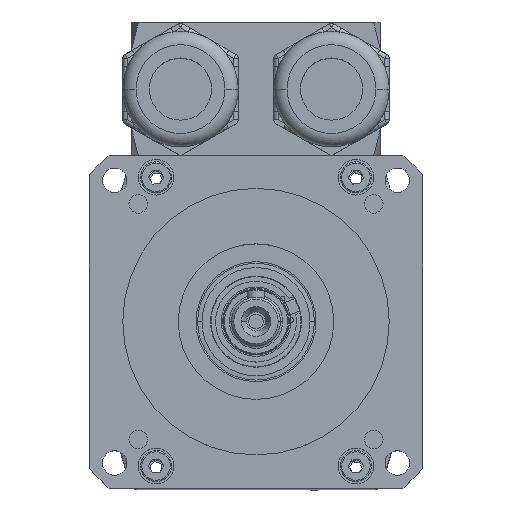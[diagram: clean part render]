
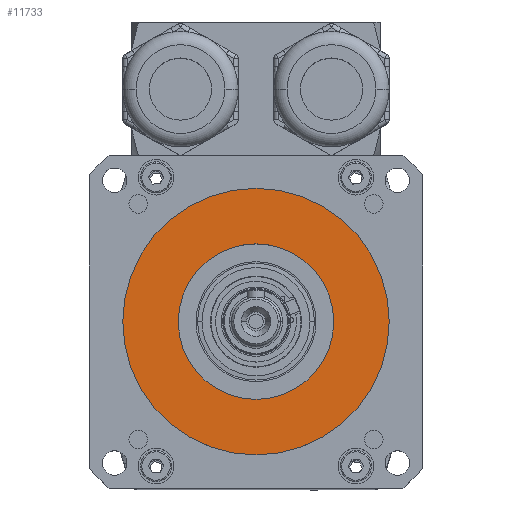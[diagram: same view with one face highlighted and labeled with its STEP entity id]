
A CAD part, top view. The second image highlights one B-rep face of the part: STEP entity #11733.
In plain terms, the highlighted planar face has unit normal (0, 0, 1).
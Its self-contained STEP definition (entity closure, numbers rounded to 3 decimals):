
#732 = ORIENTED_EDGE ( 'NONE', *, *, #9849, .F. ) ;
#824 = ORIENTED_EDGE ( 'NONE', *, *, #9801, .F. ) ;
#859 = ORIENTED_EDGE ( 'NONE', *, *, #9817, .T. ) ;
#885 = ORIENTED_EDGE ( 'NONE', *, *, #9838, .T. ) ;
#993 = EDGE_LOOP ( 'NONE', ( #885, #859 ) ) ;
#1031 = AXIS2_PLACEMENT_3D ( 'NONE', #7037, #7012, #7008 ) ;
#1038 = AXIS2_PLACEMENT_3D ( 'NONE', #7136, #7230, #7024 ) ;
#1052 = AXIS2_PLACEMENT_3D ( 'NONE', #7130, #7225, #7052 ) ;
#1057 = AXIS2_PLACEMENT_3D ( 'NONE', #7221, #7256, #7254 ) ;
#2108 = AXIS2_PLACEMENT_3D ( 'NONE', #6266, #6267, #6268 ) ;
#3116 = EDGE_LOOP ( 'NONE', ( #732, #824 ) ) ;
#4181 = CIRCLE ( 'NONE', #1031, 17.5 ) ;
#4205 = CIRCLE ( 'NONE', #1038, 30. ) ;
#5277 = CIRCLE ( 'NONE', #1052, 30. ) ;
#5293 = CIRCLE ( 'NONE', #1057, 17.5 ) ;
#6264 = PLANE ( 'NONE',  #2108 ) ;
#6266 = CARTESIAN_POINT ( 'NONE',  ( -37.5, 37.5, 19. ) ) ;
#6267 = DIRECTION ( 'NONE',  ( 0., 0., 1. ) ) ;
#6268 = DIRECTION ( 'NONE',  ( 1., 0., 0. ) ) ;
#7008 = DIRECTION ( 'NONE',  ( 1., 0., 0. ) ) ;
#7012 = DIRECTION ( 'NONE',  ( 0., 0., 1. ) ) ;
#7024 = DIRECTION ( 'NONE',  ( 1., 0., 0. ) ) ;
#7037 = CARTESIAN_POINT ( 'NONE',  ( 0., 0., 19. ) ) ;
#7052 = DIRECTION ( 'NONE',  ( 1., 0., 0. ) ) ;
#7130 = CARTESIAN_POINT ( 'NONE',  ( 0., 0., 19. ) ) ;
#7136 = CARTESIAN_POINT ( 'NONE',  ( 0., 0., 19. ) ) ;
#7221 = CARTESIAN_POINT ( 'NONE',  ( 0., 0., 19. ) ) ;
#7225 = DIRECTION ( 'NONE',  ( 0., 0., 1. ) ) ;
#7230 = DIRECTION ( 'NONE',  ( 0., 0., 1. ) ) ;
#7254 = DIRECTION ( 'NONE',  ( 1., 0., 0. ) ) ;
#7256 = DIRECTION ( 'NONE',  ( 0., 0., 1. ) ) ;
#8148 = CARTESIAN_POINT ( 'NONE',  ( -17.5, 0., 19. ) ) ;
#8156 = CARTESIAN_POINT ( 'NONE',  ( -30., 0., 19. ) ) ;
#8181 = CARTESIAN_POINT ( 'NONE',  ( 17.5, 0., 19. ) ) ;
#8246 = CARTESIAN_POINT ( 'NONE',  ( 30., 0., 19. ) ) ;
#9801 = EDGE_CURVE ( 'NONE', #12641, #12739, #4181, .T. ) ;
#9817 = EDGE_CURVE ( 'NONE', #12651, #12923, #4205, .T. ) ;
#9838 = EDGE_CURVE ( 'NONE', #12923, #12651, #5277, .T. ) ;
#9849 = EDGE_CURVE ( 'NONE', #12739, #12641, #5293, .T. ) ;
#10646 = FACE_OUTER_BOUND ( 'NONE', #993, .T. ) ;
#10647 = FACE_BOUND ( 'NONE', #3116, .T. ) ;
#11733 = ADVANCED_FACE ( 'NONE', ( #10646, #10647 ), #6264, .T. ) ;
#12641 = VERTEX_POINT ( 'NONE', #8148 ) ;
#12651 = VERTEX_POINT ( 'NONE', #8156 ) ;
#12739 = VERTEX_POINT ( 'NONE', #8181 ) ;
#12923 = VERTEX_POINT ( 'NONE', #8246 ) ;
